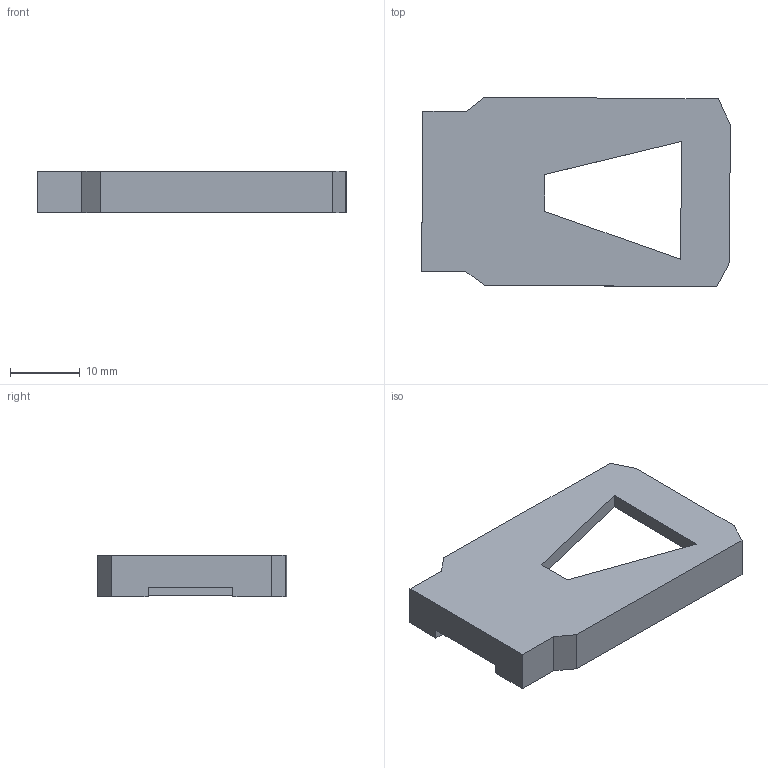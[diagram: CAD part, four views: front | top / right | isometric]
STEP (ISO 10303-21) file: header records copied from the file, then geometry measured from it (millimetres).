
FILE_DESCRIPTION(/* description */ (''),/* implementation_level */ '2;1');
FILE_NAME(/* name */ 'X:\NASBOX\Munkak\OBD_ESP32\housing_1.0\Upper_side_v4.stp',/* time_stamp */ '2022-06-28T14:45:11+02:00',/* author */ ('CRLab5'),/* organization */ (''),/* preprocessor_version */ 'ST-DEVELOPER v16.5',/* originating_system */ 'Autodesk Inventor 2017',/* authorisation */ '');
FILE_SCHEMA (('AUTOMOTIVE_DESIGN { 1 0 10303 214 3 1 1 }'));
Length unit declared in the file: millimetre
Products named in the file (1): Upper_side_v4
Bounding box: 44.37 x 27.24 x 6 mm (x, y, z)
Volume: 2730.7 mm3; surface area: 3287.2 mm2
Topology: 1 solids, 1 shells, 34 faces, 96 edges, 64 vertices
Faces by surface type: plane 34
Entity records: 1114 total; most frequent: CARTESIAN_POINT 195, ORIENTED_EDGE 192, DIRECTION 166, LINE 96, VECTOR 96, EDGE_CURVE 96, VERTEX_POINT 64, EDGE_LOOP 36
